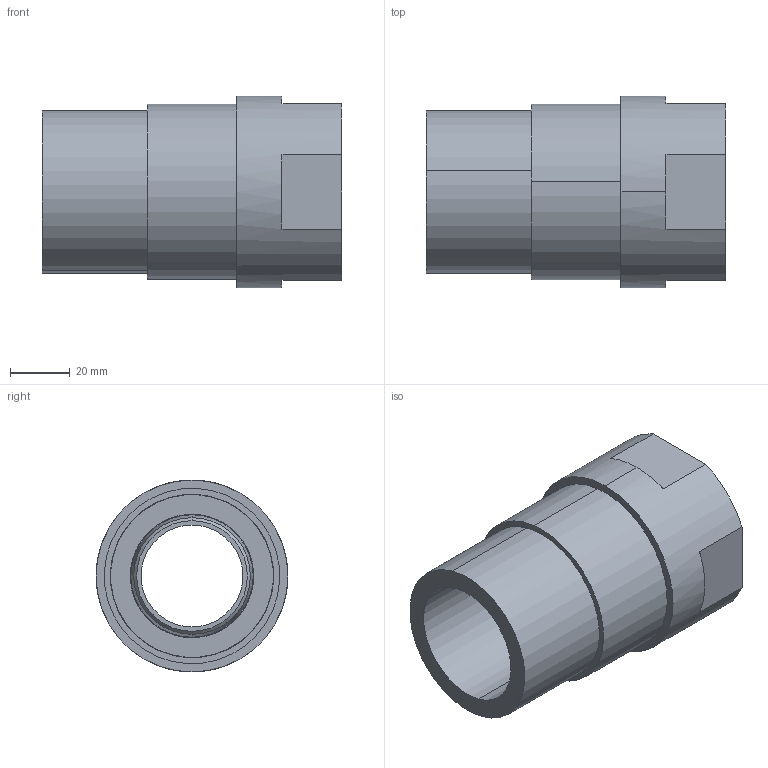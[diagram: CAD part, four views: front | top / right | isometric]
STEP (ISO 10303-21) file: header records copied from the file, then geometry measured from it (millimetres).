
FILE_DESCRIPTION (( 'STEP AP214' ), '1' );
FILE_NAME ('KP_C17-54F.step', '2012-09-03T10:40:25', ( 'robinj' ), ( 'Microsoft' ), 'SwSTEP 2.0', 'SolidWorks 2012', '' );
FILE_SCHEMA (( 'AUTOMOTIVE_DESIGN' ));
Length unit declared in the file: millimetre
Products named in the file (1): KP_C17-54F
Bounding box: 100 x 64 x 64 mm (x, y, z)
Volume: 140765.6 mm3; surface area: 55570.6 mm2
Topology: 3 solids, 3 shells, 56 faces, 120 edges, 74 vertices
Faces by surface type: cylinder 20, plane 18, cone 12, torus 6
Entity records: 2212 total; most frequent: DIRECTION 306, CARTESIAN_POINT 251, ORIENTED_EDGE 240, AXIS2_PLACEMENT_3D 129, EDGE_CURVE 120, VERTEX_POINT 74, CIRCLE 72, EDGE_LOOP 66
